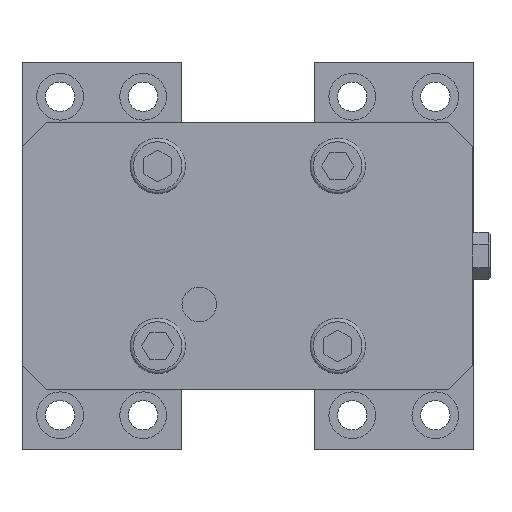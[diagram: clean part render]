
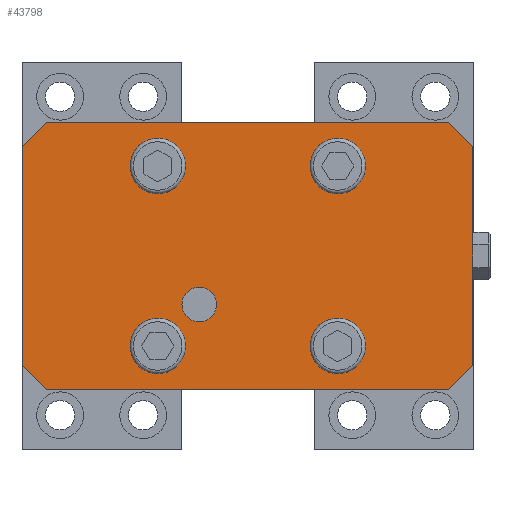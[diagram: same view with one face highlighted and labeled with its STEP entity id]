
A CAD part, front view. The second image highlights one B-rep face of the part: STEP entity #43798.
In plain terms, the highlighted planar face has unit normal (0, -1, 0).
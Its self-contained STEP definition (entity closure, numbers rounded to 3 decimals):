
#140 = DIRECTION ( 'NONE',  ( -0.707, 0., -0.707 ) ) ;
#204 = CARTESIAN_POINT ( 'NONE',  ( 65., 0., 38.5 ) ) ;
#626 = CARTESIAN_POINT ( 'NONE',  ( -26., 0., 20. ) ) ;
#869 = AXIS2_PLACEMENT_3D ( 'NONE', #16446, #26761, #22913 ) ;
#1478 = EDGE_CURVE ( 'NONE', #20347, #6816, #12987, .T. ) ;
#1908 = CARTESIAN_POINT ( 'NONE',  ( -65., 0., -38.5 ) ) ;
#1920 = CARTESIAN_POINT ( 'NONE',  ( 65., 0., 31.5 ) ) ;
#1945 = VERTEX_POINT ( 'NONE', #16504 ) ;
#2581 = EDGE_CURVE ( 'NONE', #20944, #20944, #34925, .T. ) ;
#3515 = FACE_BOUND ( 'NONE', #17464, .T. ) ;
#3770 = CARTESIAN_POINT ( 'NONE',  ( 65., 0., 31.5 ) ) ;
#3844 = CARTESIAN_POINT ( 'NONE',  ( -58., 0., 38.5 ) ) ;
#3903 = DIRECTION ( 'NONE',  ( -1., 0., 0. ) ) ;
#3963 = DIRECTION ( 'NONE',  ( 0.707, 0., -0.707 ) ) ;
#4193 = CARTESIAN_POINT ( 'NONE',  ( 65., 0., -38.5 ) ) ;
#4588 = DIRECTION ( 'NONE',  ( 1., 0., 0. ) ) ;
#4989 = CARTESIAN_POINT ( 'NONE',  ( -58., 0., 38.5 ) ) ;
#5033 = ORIENTED_EDGE ( 'NONE', *, *, #36218, .F. ) ;
#5107 = DIRECTION ( 'NONE',  ( 0., 1., 0. ) ) ;
#5860 = EDGE_CURVE ( 'NONE', #10294, #10294, #44970, .T. ) ;
#6187 = EDGE_CURVE ( 'NONE', #34945, #34945, #40546, .T. ) ;
#6682 = CARTESIAN_POINT ( 'NONE',  ( 65., 0., -38.5 ) ) ;
#6751 = FACE_BOUND ( 'NONE', #7355, .T. ) ;
#6816 = VERTEX_POINT ( 'NONE', #4989 ) ;
#6867 = VERTEX_POINT ( 'NONE', #7308 ) ;
#7001 = ORIENTED_EDGE ( 'NONE', *, *, #8514, .T. ) ;
#7308 = CARTESIAN_POINT ( 'NONE',  ( -14., 0., -19. ) ) ;
#7355 = EDGE_LOOP ( 'NONE', ( #19106 ) ) ;
#7951 = DIRECTION ( 'NONE',  ( 0., 0., -1. ) ) ;
#8163 = LINE ( 'NONE', #1920, #27645 ) ;
#8467 = AXIS2_PLACEMENT_3D ( 'NONE', #16292, #12823, #27067 ) ;
#8514 = EDGE_CURVE ( 'NONE', #23218, #25091, #21185, .T. ) ;
#8742 = AXIS2_PLACEMENT_3D ( 'NONE', #4193, #5107, #25834 ) ;
#9302 = EDGE_CURVE ( 'NONE', #6867, #6867, #26207, .T. ) ;
#10294 = VERTEX_POINT ( 'NONE', #24392 ) ;
#10954 = LINE ( 'NONE', #25005, #45337 ) ;
#11004 = CARTESIAN_POINT ( 'NONE',  ( 65., 0., -31.5 ) ) ;
#11104 = CARTESIAN_POINT ( 'NONE',  ( -58., 0., -38.5 ) ) ;
#11327 = CARTESIAN_POINT ( 'NONE',  ( 58., 0., -38.5 ) ) ;
#11409 = CARTESIAN_POINT ( 'NONE',  ( 58., 0., 38.5 ) ) ;
#12408 = EDGE_LOOP ( 'NONE', ( #36713 ) ) ;
#12823 = DIRECTION ( 'NONE',  ( 0., -1., 0. ) ) ;
#12987 = LINE ( 'NONE', #204, #26708 ) ;
#13655 = FACE_BOUND ( 'NONE', #39355, .T. ) ;
#15176 = DIRECTION ( 'NONE',  ( 0., -1., 0. ) ) ;
#15201 = ORIENTED_EDGE ( 'NONE', *, *, #2581, .F. ) ;
#15786 = DIRECTION ( 'NONE',  ( -0.707, 0., 0.707 ) ) ;
#15929 = ORIENTED_EDGE ( 'NONE', *, *, #38012, .T. ) ;
#16008 = ORIENTED_EDGE ( 'NONE', *, *, #41869, .T. ) ;
#16292 = CARTESIAN_POINT ( 'NONE',  ( -26., 0., 26. ) ) ;
#16296 = CARTESIAN_POINT ( 'NONE',  ( 26., 0., -20. ) ) ;
#16412 = EDGE_LOOP ( 'NONE', ( #40973 ) ) ;
#16446 = CARTESIAN_POINT ( 'NONE',  ( 26., 0., 26. ) ) ;
#16504 = CARTESIAN_POINT ( 'NONE',  ( -65., 0., 31.5 ) ) ;
#16735 = DIRECTION ( 'NONE',  ( 0., -1., 0. ) ) ;
#16897 = CIRCLE ( 'NONE', #22772, 6. ) ;
#17051 = AXIS2_PLACEMENT_3D ( 'NONE', #36118, #42970, #4588 ) ;
#17380 = FACE_OUTER_BOUND ( 'NONE', #32157, .T. ) ;
#17464 = EDGE_LOOP ( 'NONE', ( #15201 ) ) ;
#18894 = ORIENTED_EDGE ( 'NONE', *, *, #1478, .T. ) ;
#19106 = ORIENTED_EDGE ( 'NONE', *, *, #9302, .F. ) ;
#19654 = VERTEX_POINT ( 'NONE', #3770 ) ;
#20347 = VERTEX_POINT ( 'NONE', #11409 ) ;
#20944 = VERTEX_POINT ( 'NONE', #626 ) ;
#21185 = LINE ( 'NONE', #11004, #23936 ) ;
#21639 = CARTESIAN_POINT ( 'NONE',  ( 20., 0., 26. ) ) ;
#21656 = CARTESIAN_POINT ( 'NONE',  ( -14., 0., -14. ) ) ;
#22772 = AXIS2_PLACEMENT_3D ( 'NONE', #45003, #16735, #33946 ) ;
#22913 = DIRECTION ( 'NONE',  ( -1., 0., 0. ) ) ;
#23218 = VERTEX_POINT ( 'NONE', #11327 ) ;
#23284 = VECTOR ( 'NONE', #3963, 1000. ) ;
#23936 = VECTOR ( 'NONE', #42742, 1000. ) ;
#24260 = CARTESIAN_POINT ( 'NONE',  ( -65., 0., -31.5 ) ) ;
#24392 = CARTESIAN_POINT ( 'NONE',  ( -20., 0., -26. ) ) ;
#25005 = CARTESIAN_POINT ( 'NONE',  ( 65., 0., -38.5 ) ) ;
#25091 = VERTEX_POINT ( 'NONE', #36329 ) ;
#25338 = EDGE_CURVE ( 'NONE', #19654, #25091, #10954, .T. ) ;
#25832 = VECTOR ( 'NONE', #140, 1000. ) ;
#25834 = DIRECTION ( 'NONE',  ( 0., 0., 1. ) ) ;
#26207 = CIRCLE ( 'NONE', #35757, 5. ) ;
#26708 = VECTOR ( 'NONE', #27617, 1000. ) ;
#26761 = DIRECTION ( 'NONE',  ( 0., -1., 0. ) ) ;
#27067 = DIRECTION ( 'NONE',  ( 0., 0., -1. ) ) ;
#27070 = VERTEX_POINT ( 'NONE', #16296 ) ;
#27617 = DIRECTION ( 'NONE',  ( -1., 0., 0. ) ) ;
#27645 = VECTOR ( 'NONE', #15786, 1000. ) ;
#30435 = ORIENTED_EDGE ( 'NONE', *, *, #25338, .F. ) ;
#31121 = FACE_BOUND ( 'NONE', #16412, .T. ) ;
#31357 = PLANE ( 'NONE',  #8742 ) ;
#31442 = LINE ( 'NONE', #3844, #25832 ) ;
#31575 = LINE ( 'NONE', #11104, #23284 ) ;
#31804 = FACE_BOUND ( 'NONE', #12408, .T. ) ;
#32157 = EDGE_LOOP ( 'NONE', ( #18894, #15929, #41210, #43647, #5033, #7001, #30435, #16008 ) ) ;
#33905 = DIRECTION ( 'NONE',  ( 0., 0., -1. ) ) ;
#33946 = DIRECTION ( 'NONE',  ( 0., 0., 1. ) ) ;
#34377 = LINE ( 'NONE', #1908, #42346 ) ;
#34925 = CIRCLE ( 'NONE', #8467, 6. ) ;
#34945 = VERTEX_POINT ( 'NONE', #21639 ) ;
#35436 = EDGE_CURVE ( 'NONE', #27070, #27070, #16897, .T. ) ;
#35757 = AXIS2_PLACEMENT_3D ( 'NONE', #21656, #15176, #39544 ) ;
#36118 = CARTESIAN_POINT ( 'NONE',  ( -26., 0., -26. ) ) ;
#36218 = EDGE_CURVE ( 'NONE', #23218, #44107, #42333, .T. ) ;
#36329 = CARTESIAN_POINT ( 'NONE',  ( 65., 0., -31.5 ) ) ;
#36369 = CARTESIAN_POINT ( 'NONE',  ( -58., 0., -38.5 ) ) ;
#36713 = ORIENTED_EDGE ( 'NONE', *, *, #35436, .F. ) ;
#38012 = EDGE_CURVE ( 'NONE', #6816, #1945, #31442, .T. ) ;
#39355 = EDGE_LOOP ( 'NONE', ( #43569 ) ) ;
#39544 = DIRECTION ( 'NONE',  ( 0., 0., -1. ) ) ;
#40145 = EDGE_CURVE ( 'NONE', #1945, #40370, #34377, .T. ) ;
#40370 = VERTEX_POINT ( 'NONE', #24260 ) ;
#40546 = CIRCLE ( 'NONE', #869, 6. ) ;
#40973 = ORIENTED_EDGE ( 'NONE', *, *, #6187, .F. ) ;
#41210 = ORIENTED_EDGE ( 'NONE', *, *, #40145, .T. ) ;
#41278 = EDGE_CURVE ( 'NONE', #40370, #44107, #31575, .T. ) ;
#41869 = EDGE_CURVE ( 'NONE', #19654, #20347, #8163, .T. ) ;
#42333 = LINE ( 'NONE', #6682, #45579 ) ;
#42346 = VECTOR ( 'NONE', #33905, 1000. ) ;
#42742 = DIRECTION ( 'NONE',  ( 0.707, 0., 0.707 ) ) ;
#42970 = DIRECTION ( 'NONE',  ( 0., -1., 0. ) ) ;
#43569 = ORIENTED_EDGE ( 'NONE', *, *, #5860, .F. ) ;
#43647 = ORIENTED_EDGE ( 'NONE', *, *, #41278, .T. ) ;
#43798 = ADVANCED_FACE ( 'NONE', ( #6751, #31121, #31804, #13655, #3515, #17380 ), #31357, .F. ) ;
#44107 = VERTEX_POINT ( 'NONE', #36369 ) ;
#44970 = CIRCLE ( 'NONE', #17051, 6. ) ;
#45003 = CARTESIAN_POINT ( 'NONE',  ( 26., 0., -26. ) ) ;
#45337 = VECTOR ( 'NONE', #7951, 1000. ) ;
#45579 = VECTOR ( 'NONE', #3903, 1000. ) ;
